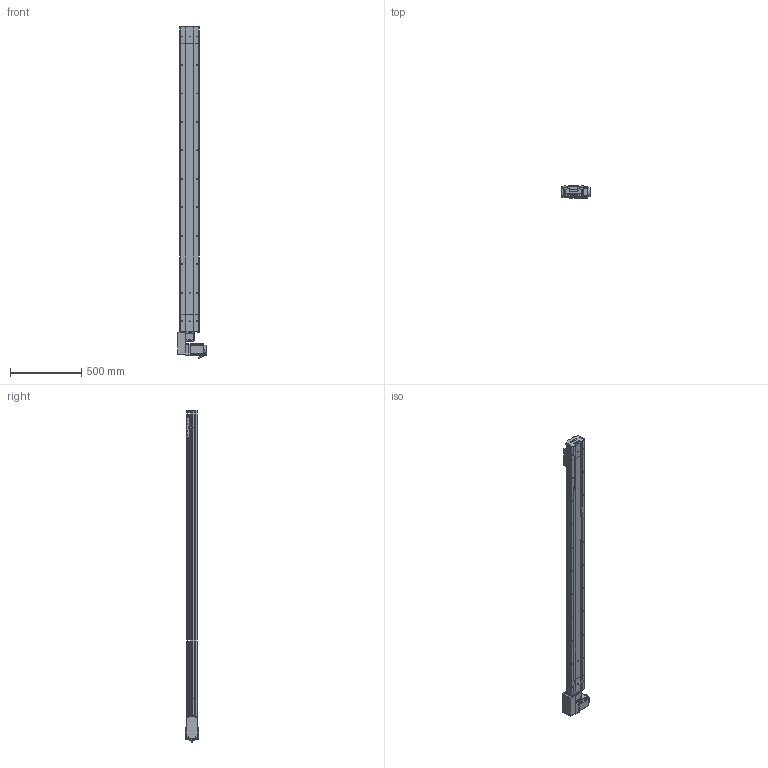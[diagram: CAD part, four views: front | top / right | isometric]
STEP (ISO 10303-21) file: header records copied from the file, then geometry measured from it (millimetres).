
FILE_DESCRIPTION (( 'STEP AP214' ), '1' );
FILE_NAME ('D14 TBH RH S1900.STEP', '2010-06-29T14:12:51', ( 'Conseil Régional Haute-Normandie' ), ( 'Conseil Régional Haute-Normandie' ), 'SwSTEP 2.0', 'SolidWorks 2010', '' );
FILE_SCHEMA (( 'AUTOMOTIVE_DESIGN' ));
Length unit declared in the file: millimetre
Products named in the file (39): couvercle D14 course L1900_Default; Vis M5 L16-2_Default; Arbre+rail tail D14; plaque de  bout tail D14_Default; corpl tail D14_Default; tete d''axe haut D14; vis M5 L16_Default; couvercle D14_Default; Tail D14B_Default; codeur 90BLDC100-640; Cvis M5 L70_Default; corp head D14_Default; Conecteur_Default; Conecteur2_Default; D14 TB H RH_Default; Couroie_Default; poulie tail_Default; corps 90BLDC100A-640; avant 90BLDC100A-640; Moteur motionking 90BLDC100A-640; couvercle D14 head_Default; couroie 2_Default; poulie head_Default; Plaque racord D14_Default; vis M5 L5_Default; renvoi RH_Default; Cache arbre_Default; Cache_Default; Arbre+rail head D14; plaque de  bout head D14 RH_Default; vis M5 L8 90°_Default; chariot D14B_Default; Chariot D14; vis M5 L12_Default; guide D14; D14 TBH RH S1900; Rail + couroie D14 Course 1900 ; corpl 1900_Default; D14 couroie L1900_Default
Assembly tree (68 placements, depth 4):
  D14 TBH RH S1900
    D14 TB H RH_Default
      vis M5 L12_Default  x12
      Cvis M5 L70_Default  x4
      Arbre+rail head D14
      vis M5 L5_Default  x2
      plaque de  bout head D14 RH_Default
      Vis M5 L16-2_Default  x4
      renvoi RH_Default
      poulie head_Default
      corp head D14_Default
      Moteur motionking 90BLDC100A-640
        corps 90BLDC100A-640
        Conecteur_Default
        Conecteur2_Default
        codeur 90BLDC100-640
        avant 90BLDC100A-640
      Cache arbre_Default
      couvercle D14 head_Default
      Cache_Default  x2
      Plaque racord D14_Default
      couroie 2_Default
    chariot D14B_Default
      vis M5 L12_Default  x4
      guide D14  x2
      Chariot D14
    Tail D14B_Default
      couvercle D14_Default
      vis M5 L12_Default  x4
      tete d''axe haut D14
      vis M5 L8 90°_Default  x2
      Couroie_Default
      corpl tail D14_Default
      vis M5 L16_Default  x2
      Arbre+rail tail D14
      plaque de  bout tail D14_Default
      poulie tail_Default
    D14 couroie L1900_Default
      couvercle D14 course L1900_Default
      corpl 1900_Default
      Rail + couroie D14 Course 1900 
Bounding box: 207.2 x 85.9 x 2332.45 mm (x, y, z)
Volume: 8822675.5 mm3; surface area: 3082049.6 mm2
Topology: 92 solids, 92 shells, 2677 faces, 6539 edges, 4218 vertices
Faces by surface type: plane 1601, cylinder 763, bspline 136, torus 89, cone 84, sphere 4
Entity records: 80576 total; most frequent: CARTESIAN_POINT 23773, ORIENTED_EDGE 9938, DIRECTION 9772, EDGE_CURVE 4969, VECTOR 3310, LINE 3310, VERTEX_POINT 3268, AXIS2_PLACEMENT_3D 3231
